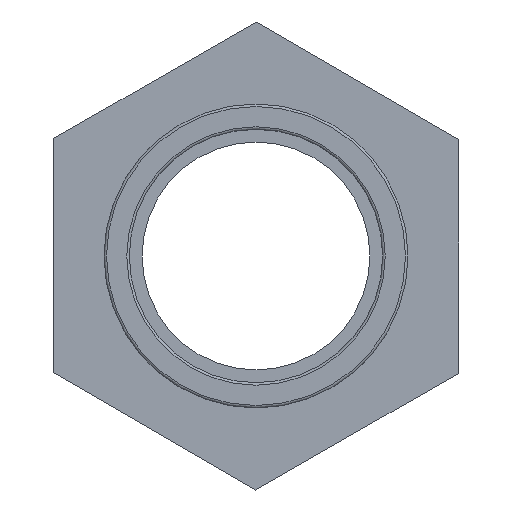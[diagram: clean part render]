
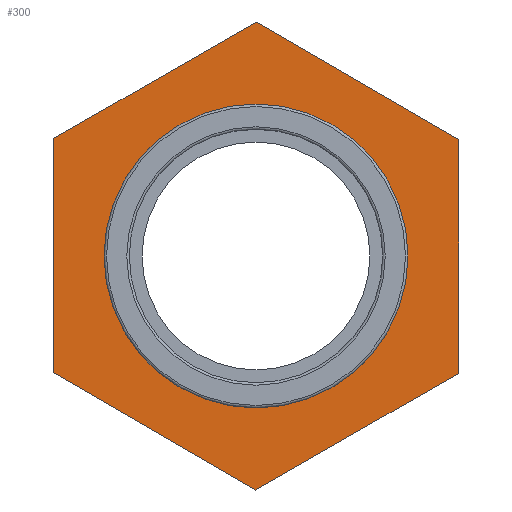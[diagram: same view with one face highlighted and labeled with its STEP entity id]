
A CAD part, left-side view. The second image highlights one B-rep face of the part: STEP entity #300.
In plain terms, the highlighted planar face has unit normal (-1, 0, 0).
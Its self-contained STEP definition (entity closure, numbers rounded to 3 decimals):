
#15=LINE('',#466,#33);
#19=LINE('',#474,#37);
#22=LINE('',#480,#40);
#25=LINE('',#487,#43);
#29=LINE('',#494,#47);
#31=LINE('',#497,#49);
#33=VECTOR('',#386,23.094);
#37=VECTOR('',#392,23.094);
#40=VECTOR('',#397,23.094);
#43=VECTOR('',#402,23.094);
#47=VECTOR('',#408,23.094);
#49=VECTOR('',#412,23.094);
#67=PLANE('',#337);
#82=FACE_BOUND('',#139,.T.);
#103=FACE_OUTER_BOUND('',#138,.T.);
#138=EDGE_LOOP('',(#269,#270,#271,#272,#273,#274));
#139=EDGE_LOOP('',(#275));
#151=CIRCLE('',#324,15.);
#165=VERTEX_POINT('',#461);
#166=VERTEX_POINT('',#464);
#167=VERTEX_POINT('',#465);
#170=VERTEX_POINT('',#473);
#172=VERTEX_POINT('',#479);
#174=VERTEX_POINT('',#485);
#175=VERTEX_POINT('',#486);
#191=EDGE_CURVE('',#165,#165,#151,.T.);
#192=EDGE_CURVE('',#166,#167,#15,.T.);
#196=EDGE_CURVE('',#167,#170,#19,.T.);
#199=EDGE_CURVE('',#170,#172,#22,.T.);
#202=EDGE_CURVE('',#174,#175,#25,.T.);
#206=EDGE_CURVE('',#175,#166,#29,.T.);
#208=EDGE_CURVE('',#172,#174,#31,.T.);
#269=ORIENTED_EDGE('',*,*,#206,.F.);
#270=ORIENTED_EDGE('',*,*,#202,.F.);
#271=ORIENTED_EDGE('',*,*,#208,.F.);
#272=ORIENTED_EDGE('',*,*,#199,.F.);
#273=ORIENTED_EDGE('',*,*,#196,.F.);
#274=ORIENTED_EDGE('',*,*,#192,.F.);
#275=ORIENTED_EDGE('',*,*,#191,.F.);
#300=ADVANCED_FACE('',(#103,#82),#67,.T.);
#324=AXIS2_PLACEMENT_3D('',#462,#382,#383);
#337=AXIS2_PLACEMENT_3D('',#507,#426,#427);
#382=DIRECTION('center_axis',(-1.,0.,0.));
#383=DIRECTION('ref_axis',(0.,0.,1.));
#386=DIRECTION('',(0.,0.003,-1.));
#392=DIRECTION('',(0.,0.867,-0.498));
#397=DIRECTION('',(0.,0.865,0.502));
#402=DIRECTION('',(0.,-0.867,0.498));
#408=DIRECTION('',(0.,-0.865,-0.502));
#412=DIRECTION('',(0.,-0.003,1.));
#426=DIRECTION('center_axis',(-1.,0.,0.));
#427=DIRECTION('ref_axis',(0.,0.,1.));
#461=CARTESIAN_POINT('',(-4.6,-15.,0.));
#462=CARTESIAN_POINT('Origin',(-4.6,0.,0.));
#464=CARTESIAN_POINT('',(-4.6,-20.032,11.492));
#465=CARTESIAN_POINT('',(-4.6,-19.968,-11.602));
#466=CARTESIAN_POINT('',(-4.6,-19.984,-5.829));
#473=CARTESIAN_POINT('',(-4.6,0.064,-23.094));
#474=CARTESIAN_POINT('',(-4.6,-4.944,-20.221));
#479=CARTESIAN_POINT('',(-4.6,20.032,-11.492));
#480=CARTESIAN_POINT('',(-4.6,15.04,-14.392));
#485=CARTESIAN_POINT('',(-4.6,19.968,11.602));
#486=CARTESIAN_POINT('',(-4.6,-0.064,23.094));
#487=CARTESIAN_POINT('',(-4.6,4.944,20.221));
#494=CARTESIAN_POINT('',(-4.6,-15.04,14.392));
#497=CARTESIAN_POINT('',(-4.6,20.,0.055));
#507=CARTESIAN_POINT('Origin',(-4.6,-15.,0.));
